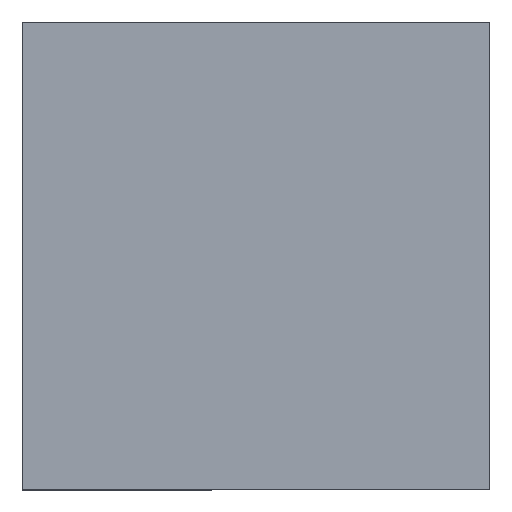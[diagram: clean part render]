
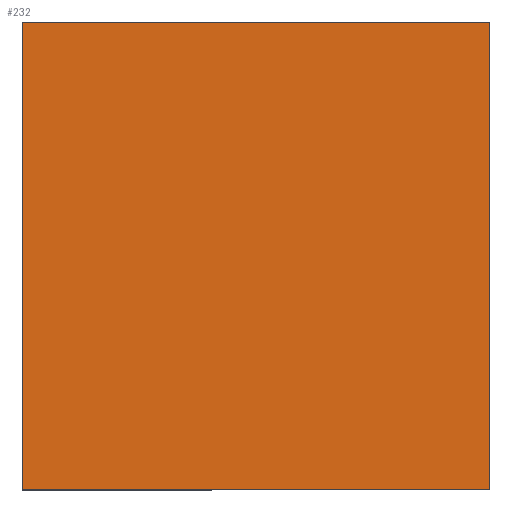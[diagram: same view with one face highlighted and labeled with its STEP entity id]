
A CAD part, top view. The second image highlights one B-rep face of the part: STEP entity #232.
In plain terms, the highlighted planar face has unit normal (0, 0, 1).
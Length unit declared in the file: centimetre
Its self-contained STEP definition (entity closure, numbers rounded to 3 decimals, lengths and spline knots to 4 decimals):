
#7 = DIRECTION ( 'NONE',  ( 0., 0., 1. ) ) ;
#9 = PLANE ( 'NONE',  #195 ) ;
#12 = CARTESIAN_POINT ( 'NONE',  ( 1000., 1000., 1000. ) ) ;
#15 = CARTESIAN_POINT ( 'NONE',  ( 0., 1000., 1000. ) ) ;
#22 = ORIENTED_EDGE ( 'NONE', *, *, #185, .T. ) ;
#50 = DIRECTION ( 'NONE',  ( 0., -1., 0. ) ) ;
#72 = CARTESIAN_POINT ( 'NONE',  ( 0., 0., 1000. ) ) ;
#90 = VERTEX_POINT ( 'NONE', #103 ) ;
#92 = VECTOR ( 'NONE', #140, 100. ) ;
#103 = CARTESIAN_POINT ( 'NONE',  ( 0., 0., 1000. ) ) ;
#112 = CARTESIAN_POINT ( 'NONE',  ( 0., 1000., 1000. ) ) ;
#118 = VERTEX_POINT ( 'NONE', #131 ) ;
#131 = CARTESIAN_POINT ( 'NONE',  ( 1000., 1000., 1000. ) ) ;
#132 = DIRECTION ( 'NONE',  ( -1., 0., 0. ) ) ;
#134 = ORIENTED_EDGE ( 'NONE', *, *, #245, .T. ) ;
#136 = EDGE_LOOP ( 'NONE', ( #319, #369, #22, #134 ) ) ;
#140 = DIRECTION ( 'NONE',  ( 1., 0., 0. ) ) ;
#166 = VERTEX_POINT ( 'NONE', #270 ) ;
#185 = EDGE_CURVE ( 'NONE', #166, #118, #212, .T. ) ;
#195 = AXIS2_PLACEMENT_3D ( 'NONE', #72, #7, #354 ) ;
#200 = LINE ( 'NONE', #315, #92 ) ;
#212 = LINE ( 'NONE', #12, #303 ) ;
#232 = ADVANCED_FACE ( 'NONE', ( #323 ), #9, .T. ) ;
#242 = VECTOR ( 'NONE', #50, 100. ) ;
#245 = EDGE_CURVE ( 'NONE', #118, #348, #275, .T. ) ;
#250 = VECTOR ( 'NONE', #132, 100. ) ;
#254 = CARTESIAN_POINT ( 'NONE',  ( 0., 1000., 1000. ) ) ;
#270 = CARTESIAN_POINT ( 'NONE',  ( 1000., 0., 1000. ) ) ;
#275 = LINE ( 'NONE', #15, #250 ) ;
#303 = VECTOR ( 'NONE', #358, 100. ) ;
#307 = EDGE_CURVE ( 'NONE', #90, #166, #200, .T. ) ;
#315 = CARTESIAN_POINT ( 'NONE',  ( 0., 0., 1000. ) ) ;
#319 = ORIENTED_EDGE ( 'NONE', *, *, #367, .T. ) ;
#323 = FACE_OUTER_BOUND ( 'NONE', #136, .T. ) ;
#348 = VERTEX_POINT ( 'NONE', #254 ) ;
#354 = DIRECTION ( 'NONE',  ( 1., 0., 0. ) ) ;
#358 = DIRECTION ( 'NONE',  ( 0., 1., 0. ) ) ;
#367 = EDGE_CURVE ( 'NONE', #348, #90, #368, .T. ) ;
#368 = LINE ( 'NONE', #112, #242 ) ;
#369 = ORIENTED_EDGE ( 'NONE', *, *, #307, .T. ) ;
